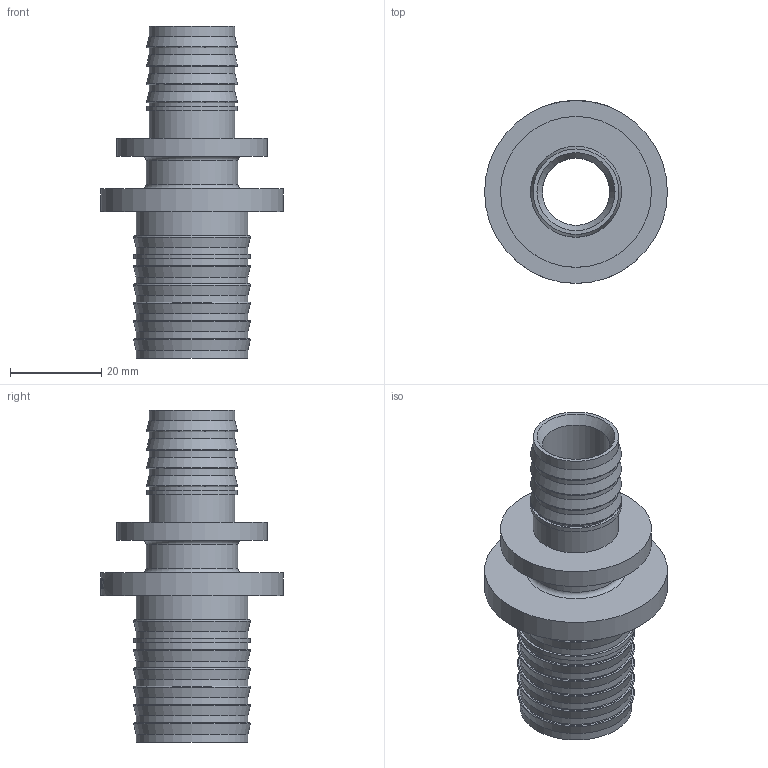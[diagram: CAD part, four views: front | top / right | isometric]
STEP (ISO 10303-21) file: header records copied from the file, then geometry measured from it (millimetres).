
FILE_DESCRIPTION(/* description */ (''),/* implementation_level */ '2;1');
FILE_NAME(/* name */ 'C:\Users\Doom\Desktop\Фадотех\Натяжка\SFM08_NEW 25X32 29.05.2020\SFM08_NEW 25X32 29.05.2020.stp',/* time_stamp */ '2022-07-25T13:26:04+03:00',/* author */ ('Doom'),/* organization */ (''),/* preprocessor_version */ 'ST-DEVELOPER v18',/* originating_system */ 'Autodesk Inventor 2020',/* authorisation */ '');
FILE_SCHEMA (('AUTOMOTIVE_DESIGN { 1 0 10303 214 3 1 1 }'));
Length unit declared in the file: millimetre
Products named in the file (1): SFM08_NEW 25X32 29.05.2020
Bounding box: 40 x 40 x 72.6 mm (x, y, z)
Volume: 17068.5 mm3; surface area: 12952.4 mm2
Topology: 1 solids, 1 shells, 184 faces, 526 edges, 367 vertices
Faces by surface type: bspline 71, plane 58, cylinder 28, cone 15, torus 12
Full cylindrical faces by diameter (mm): 14.698 x1, 18.698 x6, 19.898 x1, 20 x2, 24.4 x8, 25.5 x1, 32.998 x1, 40 x1
Entity records: 7836 total; most frequent: CARTESIAN_POINT 3218, ORIENTED_EDGE 1052, DIRECTION 811, EDGE_CURVE 526, VERTEX_POINT 367, AXIS2_PLACEMENT_3D 313, EDGE_LOOP 209, CIRCLE 199
